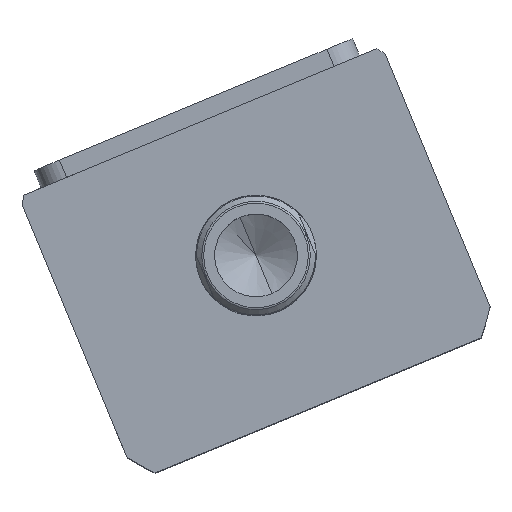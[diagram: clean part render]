
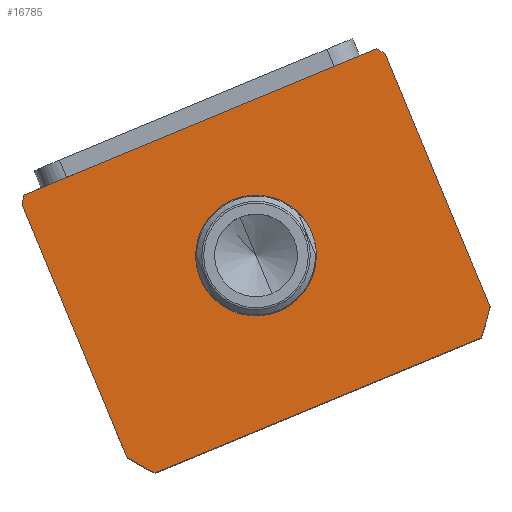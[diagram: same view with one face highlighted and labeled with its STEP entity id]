
A CAD part, top view. The second image highlights one B-rep face of the part: STEP entity #16785.
In plain terms, the highlighted planar face has unit normal (0, 0, 1) as drawn and (0, 0, -1) by its records, which use the part's own axes.
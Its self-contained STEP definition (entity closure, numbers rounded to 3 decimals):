
#96 = AXIS2_PLACEMENT_3D ( 'NONE', #5365, #15596, #6858 ) ;
#280 = DIRECTION ( 'NONE',  ( 1., 0., 0. ) ) ;
#820 = EDGE_CURVE ( 'NONE', #3136, #7751, #12288, .T. ) ;
#905 = DIRECTION ( 'NONE',  ( 0., -1., 0. ) ) ;
#987 = EDGE_LOOP ( 'NONE', ( #17982, #11135 ) ) ;
#1154 = LINE ( 'NONE', #18519, #12855 ) ;
#1159 = DIRECTION ( 'NONE',  ( 0., 0., 1. ) ) ;
#2473 = EDGE_CURVE ( 'NONE', #17351, #11840, #12312, .T. ) ;
#2526 = DIRECTION ( 'NONE',  ( 0., 1., 0. ) ) ;
#2613 = CARTESIAN_POINT ( 'NONE',  ( -55.374, 44.5, 0. ) ) ;
#2714 = ORIENTED_EDGE ( 'NONE', *, *, #7961, .F. ) ;
#2840 = ORIENTED_EDGE ( 'NONE', *, *, #16428, .F. ) ;
#3017 = FACE_BOUND ( 'NONE', #987, .T. ) ;
#3136 = VERTEX_POINT ( 'NONE', #4998 ) ;
#3752 = ORIENTED_EDGE ( 'NONE', *, *, #6598, .F. ) ;
#3921 = EDGE_CURVE ( 'NONE', #8155, #17351, #17544, .T. ) ;
#4047 = AXIS2_PLACEMENT_3D ( 'NONE', #16991, #8242, #18464 ) ;
#4892 = VERTEX_POINT ( 'NONE', #14239 ) ;
#4985 = DIRECTION ( 'NONE',  ( 0., 0., 1. ) ) ;
#4998 = CARTESIAN_POINT ( 'NONE',  ( 17.5, 2.5, 0. ) ) ;
#5123 = ORIENTED_EDGE ( 'NONE', *, *, #16646, .F. ) ;
#5365 = CARTESIAN_POINT ( 'NONE',  ( 0., 2.5, 0. ) ) ;
#5596 = DIRECTION ( 'NONE',  ( 0., 0., 1. ) ) ;
#5607 = CARTESIAN_POINT ( 'NONE',  ( -57., 44.5, 0. ) ) ;
#5804 = LINE ( 'NONE', #5607, #9706 ) ;
#5859 = CARTESIAN_POINT ( 'NONE',  ( 55.374, 44.5, 0. ) ) ;
#6060 = DIRECTION ( 'NONE',  ( 1., 0., 0. ) ) ;
#6065 = CARTESIAN_POINT ( 'NONE',  ( -57., -37.265, 0. ) ) ;
#6430 = CARTESIAN_POINT ( 'NONE',  ( 51.198, -44.5, 0. ) ) ;
#6598 = EDGE_CURVE ( 'NONE', #16648, #8155, #5804, .T. ) ;
#6636 = AXIS2_PLACEMENT_3D ( 'NONE', #17837, #9087, #280 ) ;
#6858 = DIRECTION ( 'NONE',  ( 1., 0., 0. ) ) ;
#6912 = LINE ( 'NONE', #11755, #10362 ) ;
#7070 = AXIS2_PLACEMENT_3D ( 'NONE', #14376, #5596, #15830 ) ;
#7095 = DIRECTION ( 'NONE',  ( -1., 0., 0. ) ) ;
#7293 = ORIENTED_EDGE ( 'NONE', *, *, #2473, .F. ) ;
#7751 = VERTEX_POINT ( 'NONE', #15616 ) ;
#7869 = AXIS2_PLACEMENT_3D ( 'NONE', #13776, #4985, #15224 ) ;
#7961 = EDGE_CURVE ( 'NONE', #17023, #16816, #13579, .T. ) ;
#8155 = VERTEX_POINT ( 'NONE', #2613 ) ;
#8240 = CARTESIAN_POINT ( 'NONE',  ( -57., 44.5, 0. ) ) ;
#8242 = DIRECTION ( 'NONE',  ( 0., 0., 1. ) ) ;
#8532 = CIRCLE ( 'NONE', #6636, 17.5 ) ;
#8745 = EDGE_CURVE ( 'NONE', #7751, #3136, #8532, .T. ) ;
#8803 = DIRECTION ( 'NONE',  ( 1., 0., 0. ) ) ;
#8939 = CARTESIAN_POINT ( 'NONE',  ( 0., 0., 0. ) ) ;
#9087 = DIRECTION ( 'NONE',  ( 0., 0., 1. ) ) ;
#9706 = VECTOR ( 'NONE', #7095, 1000. ) ;
#10026 = CARTESIAN_POINT ( 'NONE',  ( 0., 2.5, 0. ) ) ;
#10327 = EDGE_CURVE ( 'NONE', #11781, #16648, #12864, .T. ) ;
#10362 = VECTOR ( 'NONE', #8803, 1000. ) ;
#11135 = ORIENTED_EDGE ( 'NONE', *, *, #8745, .T. ) ;
#11451 = CIRCLE ( 'NONE', #7070, 69.5 ) ;
#11643 = ORIENTED_EDGE ( 'NONE', *, *, #3921, .F. ) ;
#11755 = CARTESIAN_POINT ( 'NONE',  ( -57., -44.5, 0. ) ) ;
#11781 = VERTEX_POINT ( 'NONE', #14692 ) ;
#11840 = VERTEX_POINT ( 'NONE', #6065 ) ;
#11859 = VECTOR ( 'NONE', #905, 1000. ) ;
#12015 = AXIS2_PLACEMENT_3D ( 'NONE', #10026, #1159, #15431 ) ;
#12134 = ORIENTED_EDGE ( 'NONE', *, *, #10327, .F. ) ;
#12167 = CARTESIAN_POINT ( 'NONE',  ( -57., 42.265, 0. ) ) ;
#12288 = CIRCLE ( 'NONE', #12015, 17.5 ) ;
#12312 = LINE ( 'NONE', #8240, #11859 ) ;
#12855 = VECTOR ( 'NONE', #2526, 1000. ) ;
#12864 = CIRCLE ( 'NONE', #7869, 69.5 ) ;
#13352 = PLANE ( 'NONE',  #16855 ) ;
#13405 = EDGE_CURVE ( 'NONE', #16816, #11781, #1154, .T. ) ;
#13579 = CIRCLE ( 'NONE', #96, 69.5 ) ;
#13770 = FACE_OUTER_BOUND ( 'NONE', #13933, .T. ) ;
#13776 = CARTESIAN_POINT ( 'NONE',  ( 0., 2.5, 0. ) ) ;
#13933 = EDGE_LOOP ( 'NONE', ( #12134, #18472, #2714, #5123, #2840, #7293, #11643, #3752 ) ) ;
#14239 = CARTESIAN_POINT ( 'NONE',  ( -51.198, -44.5, 0. ) ) ;
#14376 = CARTESIAN_POINT ( 'NONE',  ( 0., 2.5, 0. ) ) ;
#14692 = CARTESIAN_POINT ( 'NONE',  ( 57., 42.265, 0. ) ) ;
#14811 = DIRECTION ( 'NONE',  ( 0., 0., 1. ) ) ;
#15224 = DIRECTION ( 'NONE',  ( 1., 0., 0. ) ) ;
#15431 = DIRECTION ( 'NONE',  ( 1., 0., 0. ) ) ;
#15596 = DIRECTION ( 'NONE',  ( 0., 0., 1. ) ) ;
#15616 = CARTESIAN_POINT ( 'NONE',  ( -17.5, 2.5, 0. ) ) ;
#15830 = DIRECTION ( 'NONE',  ( 1., 0., 0. ) ) ;
#16285 = CARTESIAN_POINT ( 'NONE',  ( 57., -37.265, 0. ) ) ;
#16428 = EDGE_CURVE ( 'NONE', #11840, #4892, #11451, .T. ) ;
#16646 = EDGE_CURVE ( 'NONE', #4892, #17023, #6912, .T. ) ;
#16648 = VERTEX_POINT ( 'NONE', #5859 ) ;
#16785 = ADVANCED_FACE ( 'NONE', ( #3017, #13770 ), #13352, .F. ) ;
#16816 = VERTEX_POINT ( 'NONE', #16285 ) ;
#16855 = AXIS2_PLACEMENT_3D ( 'NONE', #8939, #14811, #6060 ) ;
#16991 = CARTESIAN_POINT ( 'NONE',  ( 0., 2.5, 0. ) ) ;
#17023 = VERTEX_POINT ( 'NONE', #6430 ) ;
#17351 = VERTEX_POINT ( 'NONE', #12167 ) ;
#17544 = CIRCLE ( 'NONE', #4047, 69.5 ) ;
#17837 = CARTESIAN_POINT ( 'NONE',  ( 0., 2.5, 0. ) ) ;
#17982 = ORIENTED_EDGE ( 'NONE', *, *, #820, .T. ) ;
#18464 = DIRECTION ( 'NONE',  ( 1., 0., 0. ) ) ;
#18472 = ORIENTED_EDGE ( 'NONE', *, *, #13405, .F. ) ;
#18519 = CARTESIAN_POINT ( 'NONE',  ( 57., 44.5, 0. ) ) ;
